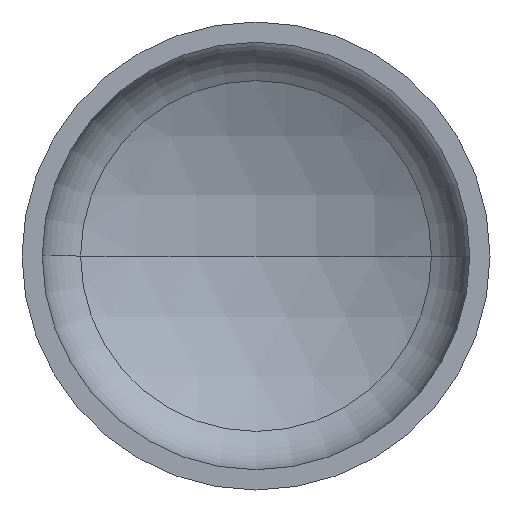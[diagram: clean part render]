
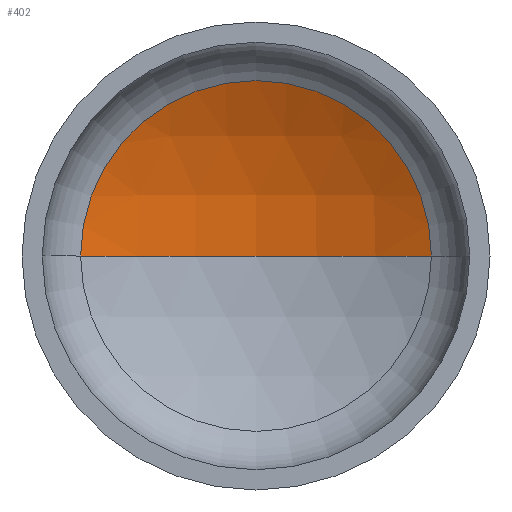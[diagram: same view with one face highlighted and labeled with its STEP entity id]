
A CAD part, front view. The second image highlights one B-rep face of the part: STEP entity #402.
In plain terms, the highlighted spherical face has radius 1920 mm.
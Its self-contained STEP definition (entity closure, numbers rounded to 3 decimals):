
#9 = EDGE_LOOP ( 'NONE', ( #68, #116, #56 ) ) ;
#44 = CARTESIAN_POINT ( 'NONE',  ( -899.303, 401.904, 0. ) ) ;
#51 = VERTEX_POINT ( 'NONE', #370 ) ;
#52 = AXIS2_PLACEMENT_3D ( 'NONE', #265, #263, #261 ) ;
#53 = AXIS2_PLACEMENT_3D ( 'NONE', #276, #243, #241 ) ;
#56 = ORIENTED_EDGE ( 'NONE', *, *, #171, .T. ) ;
#57 = AXIS2_PLACEMENT_3D ( 'NONE', #386, #405, #267 ) ;
#68 = ORIENTED_EDGE ( 'NONE', *, *, #192, .F. ) ;
#116 = ORIENTED_EDGE ( 'NONE', *, *, #178, .T. ) ;
#117 = VERTEX_POINT ( 'NONE', #246 ) ;
#164 = FACE_OUTER_BOUND ( 'NONE', #9, .T. ) ;
#171 = EDGE_CURVE ( 'NONE', #117, #239, #398, .T. ) ;
#178 = EDGE_CURVE ( 'NONE', #51, #117, #268, .T. ) ;
#192 = EDGE_CURVE ( 'NONE', #51, #239, #394, .T. ) ;
#231 = CARTESIAN_POINT ( 'NONE',  ( 0., -1294.461, 0. ) ) ;
#239 = VERTEX_POINT ( 'NONE', #44 ) ;
#241 = DIRECTION ( 'NONE',  ( 1., 0., 0. ) ) ;
#243 = DIRECTION ( 'NONE',  ( 0., 0., 1. ) ) ;
#246 = CARTESIAN_POINT ( 'NONE',  ( 899.303, 401.904, 0. ) ) ;
#261 = DIRECTION ( 'NONE',  ( -1., 0., 0. ) ) ;
#263 = DIRECTION ( 'NONE',  ( 0., 0., -1. ) ) ;
#265 = CARTESIAN_POINT ( 'NONE',  ( 0., -1294.461, 0. ) ) ;
#267 = DIRECTION ( 'NONE',  ( 1., 0., 0. ) ) ;
#268 = CIRCLE ( 'NONE', #52, 1920. ) ;
#275 = SPHERICAL_SURFACE ( 'NONE', #314, 1920. ) ;
#276 = CARTESIAN_POINT ( 'NONE',  ( 0., -1294.461, 0. ) ) ;
#314 = AXIS2_PLACEMENT_3D ( 'NONE', #231, #346, #344 ) ;
#344 = DIRECTION ( 'NONE',  ( -1., 0., 0. ) ) ;
#346 = DIRECTION ( 'NONE',  ( 0., 0., -1. ) ) ;
#370 = CARTESIAN_POINT ( 'NONE',  ( 0., 625.539, 0. ) ) ;
#386 = CARTESIAN_POINT ( 'NONE',  ( 0., 401.904, 0. ) ) ;
#394 = CIRCLE ( 'NONE', #53, 1920. ) ;
#398 = CIRCLE ( 'NONE', #57, 899.303 ) ;
#402 = ADVANCED_FACE ( 'NONE', ( #164 ), #275, .F. ) ;
#405 = DIRECTION ( 'NONE',  ( 0., -1., 0. ) ) ;
